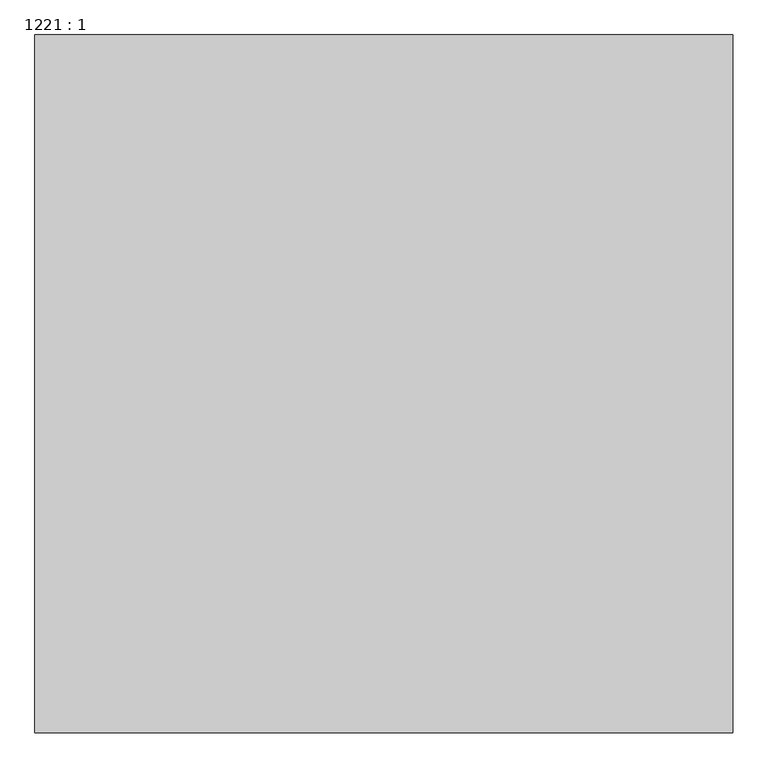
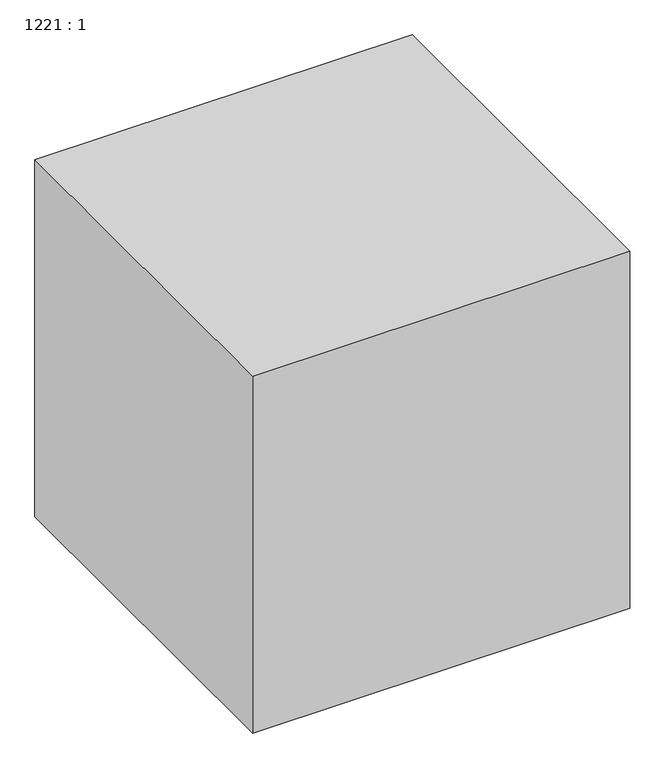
"""IFC4 building model written with IfcOpenShell, lengths in millimetres: proxy geometry, 1221 : 1."""

from ifc_helpers import new_model, si_unit, origin, origin_with_axes, place, context, project, spatial, polyline, outline, extrude, source, transform, mapped, element, save


def proxy_1221_1_1ebcc772(model_context):
    return source(origin(), model_context, "Body", "SweptSolid", [
        extrude(outline(polyline([(-20307.9756708, 21335.2294472), (-20307.9756708, 20335.2294472), (-21307.9756708, 20335.2294472), (-21307.9756708, 21335.2294472), (-20307.9756708, 21335.2294472)])), origin_with_axes(), (0.0, 0.0, 1.0), 1000.0),
    ])


if __name__ == "__main__":
    model = new_model("IFC4")
    model_context = context("Model", 3, world=origin())
    ifc_project = project(units=[si_unit("LENGTHUNIT", "METRE", prefix="MILLI")], contexts=[model_context])
    site = spatial("IfcSite", under=ifc_project)
    building = spatial("IfcBuilding", under=site)
    placement = place(None, origin())
    proxy_1221_1_shape = proxy_1221_1_1ebcc772(model_context)
    element("IfcBuildingElementProxy", 1, Name="1221 : 1", ObjectType="1221 : 1", at=placement, inside=building, context=model_context, shape_type="MappedRepresentation", body=[
        mapped(proxy_1221_1_shape, transform((0.0, 0.0, 0.0), x_axis=(1.0, 0.0, 0.0), y_axis=(0.0, 1.0, 0.0), z_axis=(0.0, 0.0, 1.0))),
    ])
    save(model, "model.ifc")
